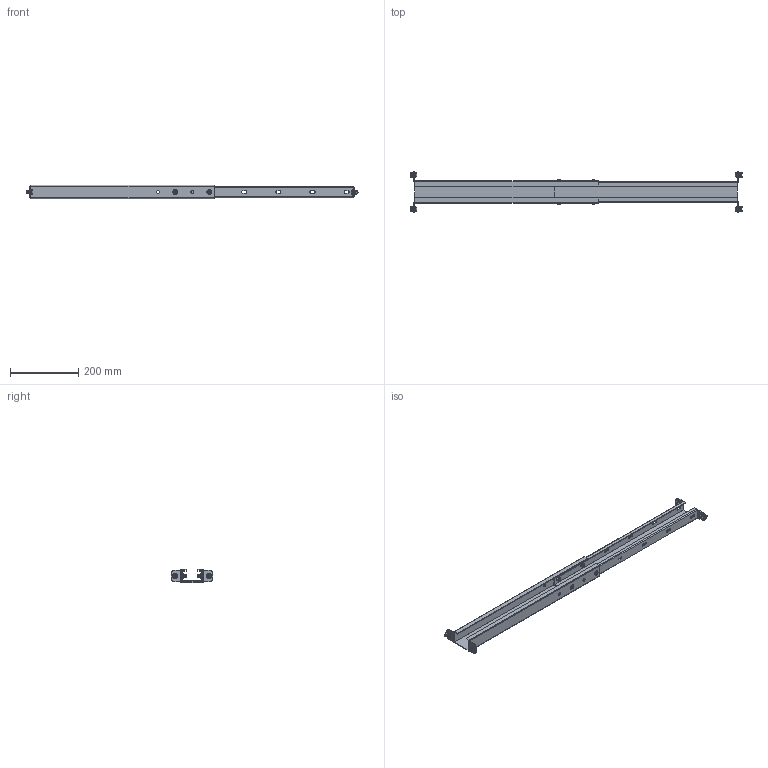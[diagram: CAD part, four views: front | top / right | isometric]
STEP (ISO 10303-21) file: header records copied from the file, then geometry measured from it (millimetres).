
FILE_DESCRIPTION(/* description */ ('Unknown'),/* implementation_level */ '2;1');
FILE_NAME(/* name */ '127.00631_01-950mm',/* time_stamp */ '2025-03-27T10:57:55+01:00',/* author */ ('Unknown'),/* organization */ ('Unknown'),/* preprocessor_version */ 'ST-DEVELOPER v20',/* originating_system */ 'Solid Edge',/* authorisation */ 'Unknown');
FILE_SCHEMA (('AUTOMOTIVE_DESIGN {1 0 10303 214 3 1 1}'));
Length unit declared in the file: millimetre
Products named in the file (9): 127.00631; 096599_2; 096600_2; Sechskantmutter M6 DIN 934; Scheibe Ø6,4 DIN 125; Halbrundkopfschraube mit Innensechskant M8x12 ISO 7380-1; Scheibe Ø8,4 DIN 125; Nutenstein M8_montiert; Halbrundkopfschraube mit Innensechskant und Bund M6x16 ISO 7380-2
Assembly tree (26 placements, depth 2):
  127.00631
    096599_2
    096600_2
    Sechskantmutter M6 DIN 934  x4
    Scheibe Ø6,4 DIN 125  x4
    Halbrundkopfschraube mit Innensechskant M8x12 ISO 7380-1  x4
    Scheibe Ø8,4 DIN 125  x4
    Nutenstein M8_montiert  x4
    Halbrundkopfschraube mit Innensechskant und Bund M6x16 ISO 7380-2  x4
Bounding box: 971 x 120 x 40 mm (x, y, z)
Volume: 418379.4 mm3; surface area: 347375.8 mm2
Topology: 26 solids, 26 shells, 828 faces, 2158 edges, 1394 vertices
Faces by surface type: plane 408, cylinder 276, torus 72, bspline 48, cone 20, sphere 4
Full cylindrical faces by diameter (mm): 6 x8, 6.4 x4, 6.647 x4, 8 x4, 8.5 x16, 12 x4, 13.6 x4, 14 x4, 16.8 x4
Entity records: 11194 total; most frequent: CARTESIAN_POINT 2555, ORIENTED_EDGE 1618, DIRECTION 1610, EDGE_CURVE 809, AXIS2_PLACEMENT_3D 565, VERTEX_POINT 545, LINE 480, VECTOR 480
